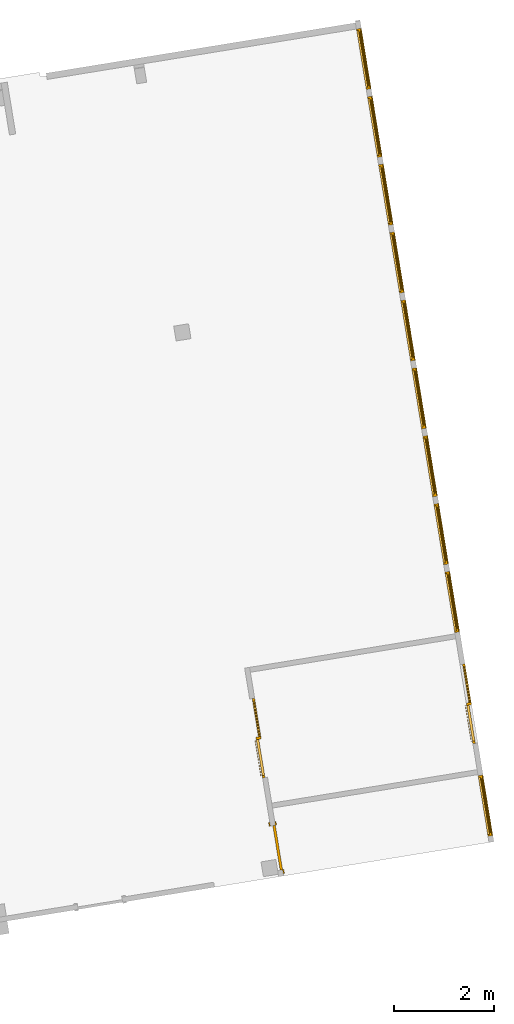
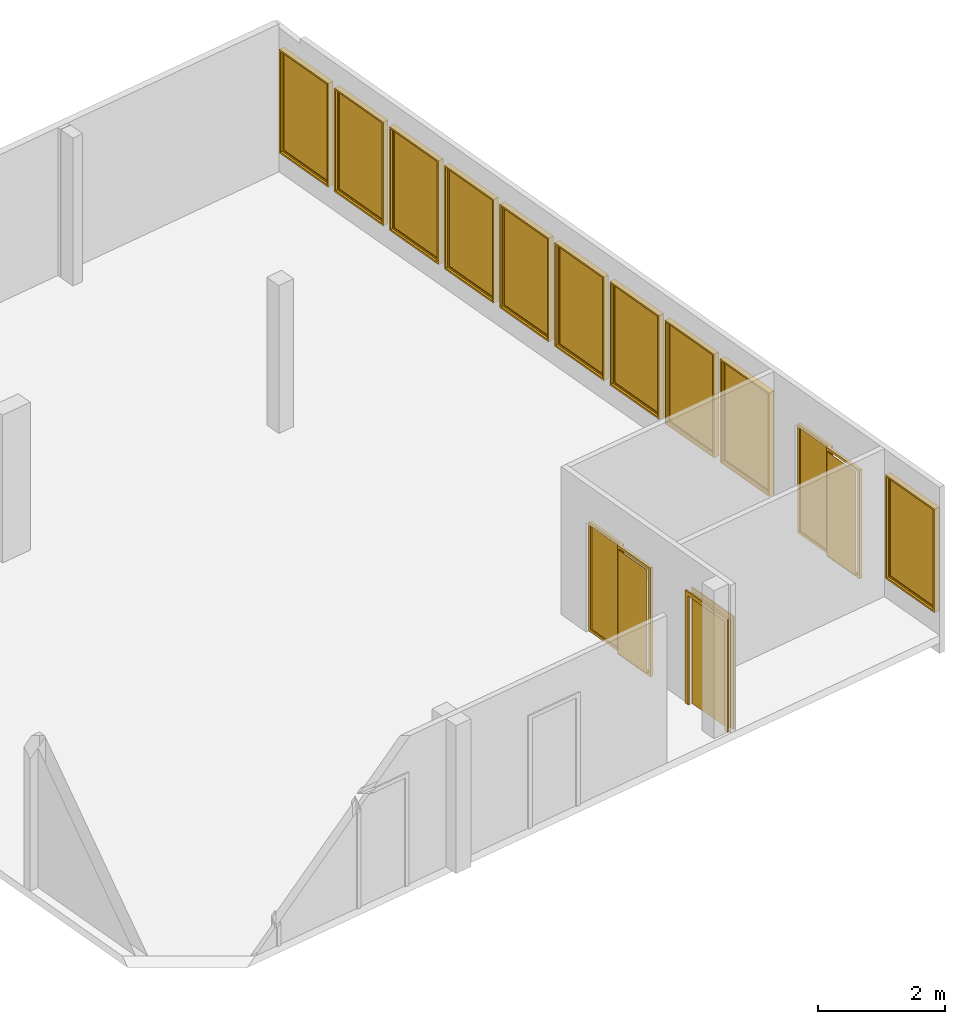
# One storey, part 5 of 5: 10 windows, 3 doors.
"""IFC2X3 building model written with IfcOpenShell, lengths in millimetres."""

from ifc_helpers import new_model, entity, si_unit, converted_unit, derived_unit, direction, frame, frame_2d, origin, origin_with_axes, origin_2d_with_axis, place, context, subcontext, project, spatial, polyline, rectangle, outline, extrude, source, transform, mapped, material, material_list, type_object, element, save


model = new_model("IFC2X3")

# Units and contexts
model_context = context("Model", 3, precision=0.01, world=origin(), true_north=direction((6.12323399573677e-17, 1.0)))
plan_context = context("Plan", 3, precision=1e-05, world=origin_with_axes())
body_context = subcontext(model_context, "Body", "Model", "MODEL_VIEW")
ifc_project = project(units=[converted_unit("PLANEANGLEUNIT", "DEGREE", entity("IfcPositiveLengthMeasure", 0.0174532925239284), si_unit("PLANEANGLEUNIT", "RADIAN"), dimensions=[0, 0, 0, 0, 0, 0, 0]), si_unit("AREAUNIT", "SQUARE_METRE"), si_unit("LENGTHUNIT", "METRE", prefix="MILLI"), si_unit("MASSUNIT", "GRAM", prefix="KILO"), si_unit("POWERUNIT", "WATT"), si_unit("PRESSUREUNIT", "PASCAL", prefix="KILO"), si_unit("FORCEUNIT", "NEWTON", prefix="KILO"), si_unit("ELECTRICVOLTAGEUNIT", "VOLT"), si_unit("ELECTRICCURRENTUNIT", "AMPERE"), si_unit("THERMODYNAMICTEMPERATUREUNIT", "DEGREE_CELSIUS"), si_unit("TIMEUNIT", "SECOND"), si_unit("VOLUMEUNIT", "CUBIC_METRE"), derived_unit("LINEARVELOCITYUNIT", [(si_unit("LENGTHUNIT", "METRE"), 1), (si_unit("TIMEUNIT", "SECOND"), -1)]), derived_unit("VOLUMETRICFLOWRATEUNIT", [(si_unit("VOLUMEUNIT", "CUBIC_METRE"), 1), (si_unit("TIMEUNIT", "SECOND"), -1)]), derived_unit("THERMALTRANSMITTANCEUNIT", [(si_unit("POWERUNIT", "WATT"), 1), (si_unit("THERMODYNAMICTEMPERATUREUNIT", "KELVIN"), -1), (si_unit("AREAUNIT", "SQUARE_METRE"), -1)]), derived_unit("SOUNDPRESSUREUNIT", [(si_unit("PRESSUREUNIT", "PASCAL"), 1)])], contexts=[model_context, plan_context])

# Site, building, storey
site_placement = place(None, frame((118326.676922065, 1366174.45681126, 48360.0), z_axis=(0.0, 0.0, 1.0), x_axis=(0.160815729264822, -0.986984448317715, 0.0)))
site = spatial("IfcSite", under=ifc_project, at=site_placement, Name="Default", CompositionType="ELEMENT")
building_placement = place(site_placement, origin_with_axes())
building = spatial("IfcBuilding", under=site, at=building_placement, Name="br002", CompositionType="ELEMENT")
storey_placement = place(building_placement, frame((0.0, 0.0, 3850.0), z_axis=(0.0, 0.0, 1.0), x_axis=(1.0, 0.0, 0.0)))
storey = spatial("IfcBuildingStorey", under=building, at=storey_placement, Name="H01", CompositionType="ELEMENT", Elevation=3849.99999999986)

# Doors
ifc_material_1 = material(Name="Door - Frame")
ifc_material_2 = material(Name="Door - Panel")
ifc_material_list_1 = material_list([ifc_material_1, ifc_material_2])
door_style_1 = type_object("IfcDoorStyle", Name="M_Single-Flush:0900 x 2100 mm", ConstructionType="NOTDEFINED", OperationType="NOTDEFINED", ParameterTakesPrecedence=False, Sizeable=False, material=ifc_material_list_1)
shared_shape_1 = source(origin(), body_context, "Body", "SweptSolid", [
    extrude(outline(polyline([(-526.0, -1107.0), (526.0, -1107.0), (526.0, 1069.0), (450.0, 1069.0), (450.0, -1031.0), (-450.0, -1031.0), (-450.0, 1069.0), (-526.0, 1069.0), (-526.0, -1107.0)])), frame((450.0, 125.0, 1069.0), z_axis=(0.0, -1.0, 0.0), x_axis=(-1.0, 0.0, 0.0)), (0.0, 0.0, 1.0), 24.9999999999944),
    extrude(outline(polyline([(-1107.0, -526.0), (1069.0, -526.0), (1069.0, -450.0), (-1031.0, -450.0), (-1031.0, 450.0), (1069.0, 450.0), (1069.0, 526.0), (-1107.0, 526.0), (-1107.0, -526.0)])), frame((450.0, 0.0, 1069.0), z_axis=(0.0, -1.0, 0.0), x_axis=(0.0, 0.0, -1.0)), (0.0, 0.0, 1.0), 25.0000000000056),
    extrude(rectangle(XDim=900.0, YDim=51.0, at=origin_2d_with_axis()), frame((450.0, 74.4999999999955, 0.0)), (0.0, 0.0, 1.0), 2100.0),
])
door_1_placement = place(storey_placement, frame((40474.1710782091, 12377.1763278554, 350.0), z_axis=(0.0, 0.0, 1.0), x_axis=(1.0, 0.0, 0.0)))
element("IfcDoor", 1, at=door_1_placement, inside=storey, type_object=door_style_1, material=ifc_material_list_1, Name="M_Single-Flush:0900 x 2100 mm", ObjectType="M_Single-Flush:0900 x 2100 mm", OverallHeight=2100.0, OverallWidth=900.000000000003, context=body_context, shape_type="MappedRepresentation", body=[
    mapped(shared_shape_1, transform((0.0, 0.0, 0.0), scale=1.0)),
])
ifc_material_3 = material(Name="Wood - Birch - Solid Stained Light Low Gloss")
ifc_material_4 = material(Name="Glass")
ifc_material_list_2 = material_list([ifc_material_3, ifc_material_4])
door_style_2 = type_object("IfcDoorStyle", Name="M_Door-Double-Sliding:1600 x 2100mm", ConstructionType="NOTDEFINED", OperationType="NOTDEFINED", ParameterTakesPrecedence=False, Sizeable=False, material=ifc_material_list_2)
shared_shape_2 = source(origin(), body_context, "Body", "SweptSolid", [
    extrude(outline(polyline([(-412.499999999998, -1050.0), (412.499999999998, -1050.0), (412.499999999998, 1050.0), (-412.499999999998, 1050.0), (-412.499999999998, -1050.0)]), holes=[polyline([(-362.500000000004, -1000.0), (-362.500000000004, 1000.0), (362.500000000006, 1000.0), (362.500000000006, -1000.0), (-362.500000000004, -1000.0)])]), frame((1187.5, 0.0, 1050.0), z_axis=(0.0, 1.0, 0.0), x_axis=(1.0, 0.0, 0.0)), (0.0, 0.0, 1.0), 49.9999999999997),
    extrude(outline(polyline([(-1050.0, -412.499999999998), (1050.0, -412.499999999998), (1050.0, 412.499999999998), (-1050.0, 412.499999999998), (-1050.0, -412.499999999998)]), holes=[polyline([(-1000.0, -362.500000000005), (-1000.0, 362.499999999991), (1000.0, 362.499999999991), (1000.0, -362.500000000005), (-1000.0, -362.500000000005)])]), frame((412.5, 50.0, 1050.0), z_axis=(0.0, 1.0, 0.0), x_axis=(0.0, 0.0, -1.0)), (0.0, 0.0, 1.0), 50.0000000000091),
    extrude(rectangle(XDim=6.34999999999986, YDim=725.000000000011, at=frame_2d((-8.43769498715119e-15, 0.0), x_axis=(1.0, 0.0))), frame((1187.5, 25.0, 50.0), z_axis=(0.0, 0.0, 1.0), x_axis=(0.0, -1.0, 0.0)), (0.0, 0.0, 1.0), 2000.0),
    extrude(rectangle(XDim=6.35000000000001, YDim=724.999999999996, at=frame_2d((1.68753899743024e-14, 0.0), x_axis=(1.0, 0.0))), frame((412.500000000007, 126.200000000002, 50.0), z_axis=(0.0, 0.0, 1.0), x_axis=(0.0, 1.0, 0.0)), (0.0, 0.0, 1.0), 2000.0),
])
door_2_placement = place(storey_placement, frame((39499.1710782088, 16737.1763278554, 350.0), z_axis=(0.0, 0.0, 1.0), x_axis=(-1.0, 0.0, 0.0)))
element("IfcDoor", 2, at=door_2_placement, inside=storey, type_object=door_style_2, material=ifc_material_list_2, Name="M_Door-Double-Sliding:1600 x 2100mm", ObjectType="M_Door-Double-Sliding:1600 x 2100mm", OverallHeight=2100.0, OverallWidth=1600.0, context=body_context, shape_type="MappedRepresentation", body=[
    mapped(shared_shape_2, transform((0.0, 0.0, 0.0), scale=1.0)),
])
door_style_3 = type_object("IfcDoorStyle", Name="M_Door-Double-Sliding:1600 x 2100mm", ConstructionType="NOTDEFINED", OperationType="NOTDEFINED", ParameterTakesPrecedence=False, Sizeable=False, material=ifc_material_list_2)
door_3_placement = place(storey_placement, frame((39499.1710782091, 12477.1763278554, 350.0), z_axis=(0.0, 0.0, 1.0), x_axis=(-1.0, 0.0, 0.0)))
element("IfcDoor", 3, at=door_3_placement, inside=storey, type_object=door_style_3, material=ifc_material_list_2, Name="M_Door-Double-Sliding:1600 x 2100mm", ObjectType="M_Door-Double-Sliding:1600 x 2100mm", OverallHeight=2100.0, OverallWidth=1600.0, context=body_context, shape_type="MappedRepresentation", body=[
    mapped(shared_shape_2, transform((0.0, 0.0, 0.0), scale=1.0)),
])

# Windows
ifc_material_5 = material(Name="Aluminium")
ifc_material_list_3 = material_list([ifc_material_4, ifc_material_5])
window_style_1 = type_object("IfcWindowStyle", Name="M_Fixed:1225 x 2000 mm", ConstructionType="NOTDEFINED", OperationType="NOTDEFINED", ParameterTakesPrecedence=False, Sizeable=False, material=ifc_material_list_3)
shared_shape_3 = source(origin(), body_context, "Body", "SweptSolid", [
    extrude(rectangle(XDim=12.0, YDim=1099.0, at=origin_2d_with_axis()), frame((612.500000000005, 59.0, 63.0), z_axis=(0.0, 0.0, 1.0), x_axis=(0.0, -1.0, 0.0)), (0.0, 0.0, 1.0), 1874.0),
    extrude(outline(polyline([(-593.5, -981.0), (593.5, -981.0), (593.5, 981.0), (-593.5, 981.0), (-593.5, -981.0)]), holes=[polyline([(-549.499999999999, -937.0), (-549.499999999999, 937.0), (549.499999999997, 937.0), (549.499999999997, -937.0), (-549.499999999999, -937.0)])]), frame((612.500000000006, 37.0, 1000.0), z_axis=(0.0, 1.0, 0.0), x_axis=(1.0, 0.0, 0.0)), (0.0, 0.0, 1.0), 44.0000000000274),
    extrude(outline(polyline([(-612.5, -1000.0), (612.5, -1000.0), (612.5, 1000.0), (-612.5, 1000.0), (-612.5, -1000.0)]), holes=[polyline([(-593.500000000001, -981.0), (-593.500000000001, 981.0), (593.499999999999, 981.0), (593.499999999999, -981.0), (-593.500000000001, -981.0)])]), frame((612.500000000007, 37.0, 1000.0), z_axis=(0.0, 1.0, 0.0), x_axis=(1.0, 0.0, 0.0)), (0.0, 0.0, 1.0), 63.0000000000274),
    extrude(outline(polyline([(-612.5, -1000.0), (612.5, -1000.0), (612.5, 1000.0), (-612.5, 1000.0), (-612.5, -1000.0)]), holes=[polyline([(-580.5, -968.0), (-580.5, 968.0), (580.5, 968.0), (580.5, -968.0), (-580.5, -968.0)])]), frame((612.500000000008, 0.0, 1000.0), z_axis=(0.0, 1.0, 0.0), x_axis=(1.0, 0.0, 0.0)), (0.0, 0.0, 1.0), 36.9999999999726),
])
for number, where, z_axis, x_axis, name in (
    (4, (40149.1710782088, 16637.1763278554, 715.0), (0.0, 0.0, 1.0), (1.0, 0.0, 0.0), "M_Fixed:1225 x 2000 mm"),
    (5, (36024.1710782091, 16637.1763278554, 715.0), (0.0, 0.0, 1.0), (1.0, 0.0, 0.0), "M_Fixed:1225 x 2000 mm"),
    (6, (33274.1710782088, 16637.1763278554, 715.0), (0.0, 0.0, 1.0), (1.0, 0.0, 0.0), "M_Fixed:1225 x 2000 mm"),
    (7, (30524.1710782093, 16637.1763278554, 715.0), (0.0, 0.0, 1.0), (1.0, 0.0, 0.0), "M_Fixed:1225 x 2000 mm"),
    (8, (29149.1710782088, 16637.1763278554, 715.0), (0.0, 0.0, 1.0), (1.0, 0.0, 0.0), "M_Fixed:1225 x 2000 mm"),
    (9, (27774.1710782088, 16637.1763278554, 715.0), (0.0, 0.0, 1.0), (1.0, 0.0, 0.0), "M_Fixed:1225 x 2000 mm"),
    (10, (26399.1710782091, 16637.1763278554, 715.0), (0.0, 0.0, 1.0), (1.0, 0.0, 0.0), "M_Fixed:1225 x 2000 mm"),
    (11, (25024.1710782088, 16637.1763278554, 715.0), (0.0, 0.0, 1.0), (1.0, 0.0, 0.0), "M_Fixed:1225 x 2000 mm"),
):
    element("IfcWindow", number, at=place(storey_placement, frame(where, z_axis=z_axis, x_axis=x_axis)), inside=storey, type_object=window_style_1, material=ifc_material_list_3, Name=name, ObjectType="M_Fixed:1225 x 2000 mm", OverallHeight=1999.99999999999, OverallWidth=1225.0, context=body_context, shape_type="MappedRepresentation", body=[
        mapped(shared_shape_3, transform((0.0, 0.0, 0.0), scale=1.0)),
    ])
window_style_2 = type_object("IfcWindowStyle", Name="M_Fixed:1225 x 2000 mm", ConstructionType="NOTDEFINED", OperationType="NOTDEFINED", ParameterTakesPrecedence=False, Sizeable=False, material=ifc_material_list_3)
shared_shape_4 = source(origin(), body_context, "Body", "SweptSolid", [
    extrude(rectangle(XDim=1099.0, YDim=12.0, at=origin_2d_with_axis()), frame((612.500000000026, 85.0, 63.0), z_axis=(0.0, 0.0, 1.0), x_axis=(-1.0, 0.0, 0.0)), (0.0, 0.0, 1.0), 1874.0),
    extrude(outline(polyline([(-593.5, -981.0), (593.5, -981.0), (593.5, 981.0), (-593.5, 981.0), (-593.5, -981.0)]), holes=[polyline([(-549.499999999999, -937.0), (-549.499999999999, 937.0), (549.499999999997, 937.0), (549.499999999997, -937.0), (-549.499999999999, -937.0)])]), frame((612.500000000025, 107.0, 1000.0), z_axis=(0.0, -1.0, 0.0), x_axis=(-1.0, 0.0, 0.0)), (0.0, 0.0, 1.0), 44.0000000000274),
    extrude(outline(polyline([(-612.5, -1000.0), (612.5, -1000.0), (612.5, 1000.0), (-612.5, 1000.0), (-612.5, -1000.0)]), holes=[polyline([(-593.500000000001, -981.0), (-593.500000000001, 981.0), (593.499999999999, 981.0), (593.499999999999, -981.0), (-593.500000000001, -981.0)])]), frame((612.500000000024, 126.0, 1000.0), z_axis=(0.0, -1.0, 0.0), x_axis=(-1.0, 0.0, 0.0)), (0.0, 0.0, 1.0), 63.0000000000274),
    extrude(outline(polyline([(-612.5, -1000.0), (612.5, -1000.0), (612.5, 1000.0), (-612.5, 1000.0), (-612.5, -1000.0)]), holes=[polyline([(-580.5, -968.0), (-580.5, 968.0), (580.5, 968.0), (580.5, -968.0), (-580.5, -968.0)])]), frame((612.500000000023, 63.0, 1000.0), z_axis=(0.0, -1.0, 0.0), x_axis=(-1.0, 0.0, 0.0)), (0.0, 0.0, 1.0), 36.9999999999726),
])
for number, where, z_axis, x_axis, name in (
    (12, (34649.1710782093, 16611.1763278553, 715.0), (0.0, 0.0, 1.0), (1.0, 0.0, 0.0), "M_Fixed:1225 x 2000 mm"),
    (13, (31899.1710782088, 16611.1763278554, 715.0), (0.0, 0.0, 1.0), (1.0, 0.0, 0.0), "M_Fixed:1225 x 2000 mm"),
):
    element("IfcWindow", number, at=place(storey_placement, frame(where, z_axis=z_axis, x_axis=x_axis)), inside=storey, type_object=window_style_2, material=ifc_material_list_3, Name=name, ObjectType="M_Fixed:1225 x 2000 mm", OverallHeight=1999.99999999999, OverallWidth=1225.0, context=body_context, shape_type="MappedRepresentation", body=[
        mapped(shared_shape_4, transform((0.0, 0.0, 0.0), scale=1.0)),
    ])

save(model, "model.ifc")
